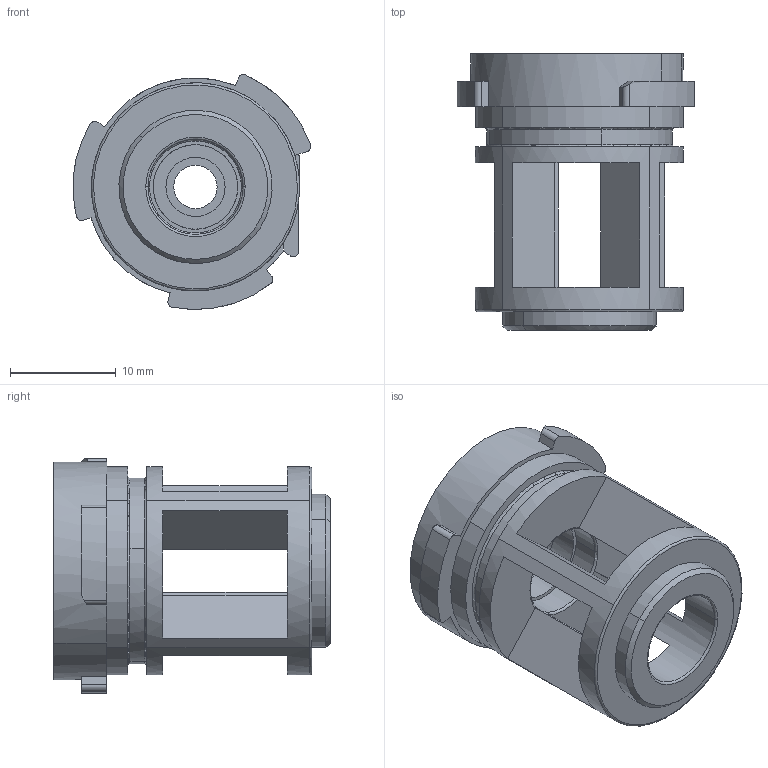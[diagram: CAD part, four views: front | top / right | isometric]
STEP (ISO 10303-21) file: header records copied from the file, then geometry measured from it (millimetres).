
FILE_DESCRIPTION(('CATIA V5 STEP Exchange'),'2;1');
FILE_NAME('C:\Users\Administrator\Desktop\端盖.stp','2021-02-25T02:22:18+00:00',('none'),('none'),'CATIA Version 5 Release 20 GA (IN-10)','CATIA V5 STEP AP214','none');
FILE_SCHEMA(('AUTOMOTIVE_DESIGN { 1 0 10303 214 1 1 1 1 }'));
Length unit declared in the file: millimetre
Products named in the file (1): BPC0010139
Bounding box: 22.51 x 26.15 x 22.23 mm (x, y, z)
Volume: 3753.3 mm3; surface area: 3435.6 mm2
Topology: 1 solids, 1 shells, 124 faces, 340 edges, 223 vertices
Faces by surface type: cylinder 58, plane 50, torus 14, cone 2
Entity records: 4056 total; most frequent: CARTESIAN_POINT 1058, ORIENTED_EDGE 680, DIRECTION 492, EDGE_CURVE 340, AXIS2_PLACEMENT_3D 251, VERTEX_POINT 223, CIRCLE 151, VECTOR 143
